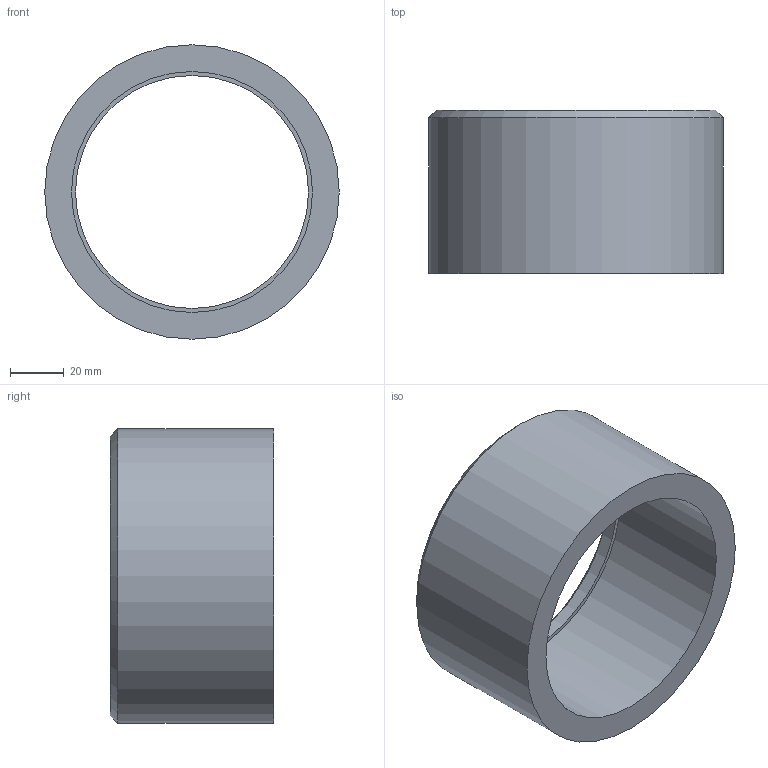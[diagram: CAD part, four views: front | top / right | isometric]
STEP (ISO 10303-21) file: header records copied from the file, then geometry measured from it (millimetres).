
FILE_DESCRIPTION(/* description */ ('PVC riduzione corta incollaggio metrica'),/* implementation_level */ '2;1');
FILE_NAME(/* name */ 'C:\Users\POLYPIPE\Desktop\DATASET INVENTOR\LIBRERIA EFFAST\RACCORDI 3DxWEB\RDR\3D_RDRRCD\3D_RDRRCD110I.stp',/* time_stamp */ '2018-01-19T15:33:15+01:00',/* author */ ('POLYPIPE'),/* organization */ ('Polypipe Italia s.r.l.'),/* preprocessor_version */ 'ST-DEVELOPER v16.1',/* originating_system */ 'Autodesk Inventor 2016',/* authorisation */ '');
FILE_SCHEMA (('CONFIG_CONTROL_DESIGN'));
Length unit declared in the file: millimetre
Products named in the file (1): 3D_RDRRCD
Bounding box: 110 x 61 x 110 mm (x, y, z)
Volume: 189860 mm3; surface area: 43916.9 mm2
Topology: 1 solids, 1 shells, 8 faces, 13 edges, 8 vertices
Faces by surface type: plane 3, cylinder 3, cone 2
Full cylindrical faces by diameter (mm): 87 x1, 90 x1, 110 x1
Entity records: 192 total; most frequent: DIRECTION 34, CARTESIAN_POINT 25, AXIS2_PLACEMENT_3D 17, EDGE_LOOP 16, ORIENTED_EDGE 16, FACE_BOUND 8, FACE_OUTER_BOUND 8, CIRCLE 8
